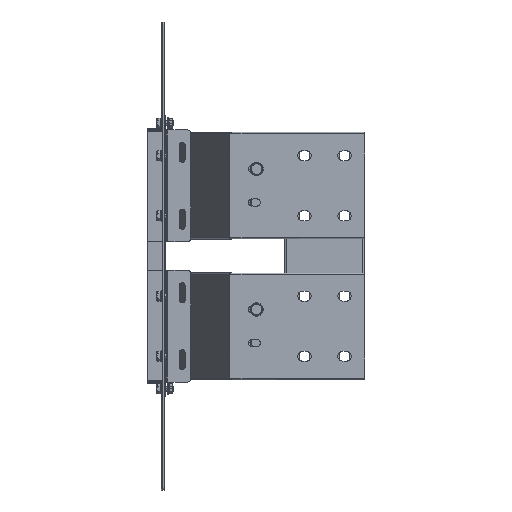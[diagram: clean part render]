
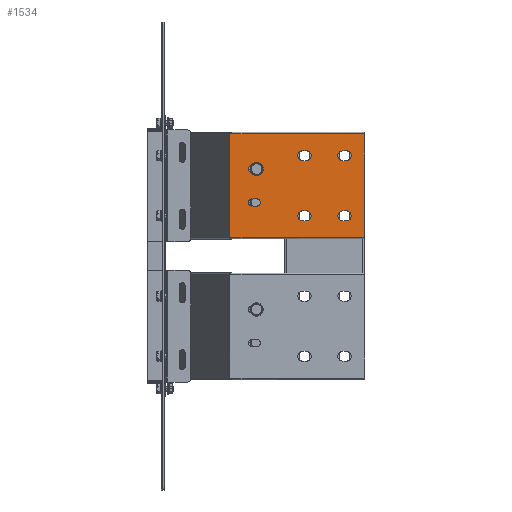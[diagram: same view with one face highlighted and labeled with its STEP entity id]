
A CAD part, front view. The second image highlights one B-rep face of the part: STEP entity #1534.
In plain terms, the highlighted planar face has unit normal (0, -1, 0).
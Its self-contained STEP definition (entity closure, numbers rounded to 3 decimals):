
#1290=AXIS2_PLACEMENT_3D('Circle Axis2P3D',#1288,#1289,$) ;
#1310=AXIS2_PLACEMENT_3D('Plane Axis2P3D',#1307,#1308,#1309) ;
#1348=AXIS2_PLACEMENT_3D('Circle Axis2P3D',#1346,#1347,$) ;
#1366=AXIS2_PLACEMENT_3D('Circle Axis2P3D',#1364,#1365,$) ;
#1382=AXIS2_PLACEMENT_3D('Circle Axis2P3D',#1380,#1381,$) ;
#1400=AXIS2_PLACEMENT_3D('Circle Axis2P3D',#1398,#1399,$) ;
#1416=AXIS2_PLACEMENT_3D('Circle Axis2P3D',#1414,#1415,$) ;
#1443=AXIS2_PLACEMENT_3D('Circle Axis2P3D',#1441,#1442,$) ;
#1457=AXIS2_PLACEMENT_3D('Circle Axis2P3D',#1455,#1456,$) ;
#1468=AXIS2_PLACEMENT_3D('Circle Axis2P3D',#1466,#1467,$) ;
#1484=AXIS2_PLACEMENT_3D('Circle Axis2P3D',#1482,#1483,$) ;
#1502=AXIS2_PLACEMENT_3D('Circle Axis2P3D',#1500,#1501,$) ;
#1518=AXIS2_PLACEMENT_3D('Circle Axis2P3D',#1516,#1517,$) ;
#1254=CARTESIAN_POINT('Vertex',(212.5,-217.25,52.5)) ;
#1257=CARTESIAN_POINT('Line Origine',(210.,-217.25,52.5)) ;
#1261=CARTESIAN_POINT('Vertex',(207.5,-217.25,52.5)) ;
#1288=CARTESIAN_POINT('Axis2P3D Location',(207.5,-217.25,45.)) ;
#1292=CARTESIAN_POINT('Vertex',(207.5,-217.25,37.5)) ;
#1307=CARTESIAN_POINT('Axis2P3D Location',(300.,-217.25,-77.75)) ;
#1312=CARTESIAN_POINT('Line Origine',(199.262,-217.25,-77.75)) ;
#1316=CARTESIAN_POINT('Vertex',(300.,-217.25,-77.75)) ;
#1318=CARTESIAN_POINT('Vertex',(98.524,-217.25,-77.75)) ;
#1321=CARTESIAN_POINT('Line Origine',(300.,-217.25,0.)) ;
#1325=CARTESIAN_POINT('Vertex',(300.,-217.25,77.75)) ;
#1328=CARTESIAN_POINT('Line Origine',(199.262,-217.25,77.75)) ;
#1332=CARTESIAN_POINT('Vertex',(98.524,-217.25,77.75)) ;
#1335=CARTESIAN_POINT('Line Origine',(98.524,-217.25,0.)) ;
#1346=CARTESIAN_POINT('Axis2P3D Location',(212.5,-217.25,45.)) ;
#1350=CARTESIAN_POINT('Vertex',(212.5,-217.25,37.5)) ;
#1353=CARTESIAN_POINT('Line Origine',(210.,-217.25,37.5)) ;
#1364=CARTESIAN_POINT('Axis2P3D Location',(272.5,-217.25,45.)) ;
#1368=CARTESIAN_POINT('Vertex',(272.5,-217.25,37.5)) ;
#1370=CARTESIAN_POINT('Vertex',(272.5,-217.25,52.5)) ;
#1373=CARTESIAN_POINT('Line Origine',(270.,-217.25,37.5)) ;
#1377=CARTESIAN_POINT('Vertex',(267.5,-217.25,37.5)) ;
#1380=CARTESIAN_POINT('Axis2P3D Location',(267.5,-217.25,45.)) ;
#1384=CARTESIAN_POINT('Vertex',(267.5,-217.25,52.5)) ;
#1387=CARTESIAN_POINT('Line Origine',(270.,-217.25,52.5)) ;
#1398=CARTESIAN_POINT('Axis2P3D Location',(207.5,-217.25,-45.)) ;
#1402=CARTESIAN_POINT('Vertex',(207.5,-217.25,-37.5)) ;
#1404=CARTESIAN_POINT('Vertex',(207.5,-217.25,-52.5)) ;
#1407=CARTESIAN_POINT('Line Origine',(210.,-217.25,-37.5)) ;
#1411=CARTESIAN_POINT('Vertex',(212.5,-217.25,-37.5)) ;
#1414=CARTESIAN_POINT('Axis2P3D Location',(212.5,-217.25,-45.)) ;
#1418=CARTESIAN_POINT('Vertex',(212.5,-217.25,-52.5)) ;
#1421=CARTESIAN_POINT('Line Origine',(210.,-217.25,-52.5)) ;
#1432=CARTESIAN_POINT('Line Origine',(270.,-217.25,-37.5)) ;
#1436=CARTESIAN_POINT('Vertex',(272.5,-217.25,-37.5)) ;
#1438=CARTESIAN_POINT('Vertex',(267.5,-217.25,-37.5)) ;
#1441=CARTESIAN_POINT('Axis2P3D Location',(272.5,-217.25,-45.)) ;
#1445=CARTESIAN_POINT('Vertex',(272.5,-217.25,-52.5)) ;
#1448=CARTESIAN_POINT('Line Origine',(270.,-217.25,-52.5)) ;
#1452=CARTESIAN_POINT('Vertex',(267.5,-217.25,-52.5)) ;
#1455=CARTESIAN_POINT('Axis2P3D Location',(267.5,-217.25,-45.)) ;
#1466=CARTESIAN_POINT('Axis2P3D Location',(138.5,-217.25,25.)) ;
#1470=CARTESIAN_POINT('Vertex',(138.5,-217.25,19.5)) ;
#1472=CARTESIAN_POINT('Vertex',(138.5,-217.25,30.5)) ;
#1475=CARTESIAN_POINT('Line Origine',(135.,-217.25,19.5)) ;
#1479=CARTESIAN_POINT('Vertex',(131.5,-217.25,19.5)) ;
#1482=CARTESIAN_POINT('Axis2P3D Location',(131.5,-217.25,25.)) ;
#1486=CARTESIAN_POINT('Vertex',(131.5,-217.25,30.5)) ;
#1489=CARTESIAN_POINT('Line Origine',(135.,-217.25,30.5)) ;
#1500=CARTESIAN_POINT('Axis2P3D Location',(131.5,-217.25,-25.)) ;
#1504=CARTESIAN_POINT('Vertex',(131.5,-217.25,-19.5)) ;
#1506=CARTESIAN_POINT('Vertex',(131.5,-217.25,-30.5)) ;
#1509=CARTESIAN_POINT('Line Origine',(135.,-217.25,-19.5)) ;
#1513=CARTESIAN_POINT('Vertex',(138.5,-217.25,-19.5)) ;
#1516=CARTESIAN_POINT('Axis2P3D Location',(138.5,-217.25,-25.)) ;
#1520=CARTESIAN_POINT('Vertex',(138.5,-217.25,-30.5)) ;
#1523=CARTESIAN_POINT('Line Origine',(135.,-217.25,-30.5)) ;
#1258=DIRECTION('Vector Direction',(1.,0.,0.)) ;
#1289=DIRECTION('Axis2P3D Direction',(0.,-1.,0.)) ;
#1308=DIRECTION('Axis2P3D Direction',(0.,-1.,0.)) ;
#1309=DIRECTION('Axis2P3D XDirection',(0.,0.,1.)) ;
#1313=DIRECTION('Vector Direction',(-1.,0.,0.)) ;
#1322=DIRECTION('Vector Direction',(0.,0.,1.)) ;
#1329=DIRECTION('Vector Direction',(-1.,0.,0.)) ;
#1336=DIRECTION('Vector Direction',(0.,0.,1.)) ;
#1347=DIRECTION('Axis2P3D Direction',(0.,-1.,0.)) ;
#1354=DIRECTION('Vector Direction',(-1.,0.,0.)) ;
#1365=DIRECTION('Axis2P3D Direction',(0.,-1.,0.)) ;
#1374=DIRECTION('Vector Direction',(1.,0.,0.)) ;
#1381=DIRECTION('Axis2P3D Direction',(0.,-1.,0.)) ;
#1388=DIRECTION('Vector Direction',(-1.,0.,0.)) ;
#1399=DIRECTION('Axis2P3D Direction',(0.,-1.,0.)) ;
#1408=DIRECTION('Vector Direction',(-1.,0.,0.)) ;
#1415=DIRECTION('Axis2P3D Direction',(0.,-1.,0.)) ;
#1422=DIRECTION('Vector Direction',(1.,0.,0.)) ;
#1433=DIRECTION('Vector Direction',(1.,0.,0.)) ;
#1442=DIRECTION('Axis2P3D Direction',(0.,-1.,0.)) ;
#1449=DIRECTION('Vector Direction',(-1.,0.,0.)) ;
#1456=DIRECTION('Axis2P3D Direction',(0.,-1.,0.)) ;
#1467=DIRECTION('Axis2P3D Direction',(0.,-1.,0.)) ;
#1476=DIRECTION('Vector Direction',(-1.,0.,0.)) ;
#1483=DIRECTION('Axis2P3D Direction',(0.,-1.,0.)) ;
#1490=DIRECTION('Vector Direction',(1.,0.,0.)) ;
#1501=DIRECTION('Axis2P3D Direction',(0.,-1.,0.)) ;
#1510=DIRECTION('Vector Direction',(-1.,0.,0.)) ;
#1517=DIRECTION('Axis2P3D Direction',(0.,-1.,0.)) ;
#1524=DIRECTION('Vector Direction',(1.,0.,0.)) ;
#1259=VECTOR('Line Direction',#1258,1.) ;
#1314=VECTOR('Line Direction',#1313,1.) ;
#1323=VECTOR('Line Direction',#1322,1.) ;
#1330=VECTOR('Line Direction',#1329,1.) ;
#1337=VECTOR('Line Direction',#1336,1.) ;
#1355=VECTOR('Line Direction',#1354,1.) ;
#1375=VECTOR('Line Direction',#1374,1.) ;
#1389=VECTOR('Line Direction',#1388,1.) ;
#1409=VECTOR('Line Direction',#1408,1.) ;
#1423=VECTOR('Line Direction',#1422,1.) ;
#1434=VECTOR('Line Direction',#1433,1.) ;
#1450=VECTOR('Line Direction',#1449,1.) ;
#1477=VECTOR('Line Direction',#1476,1.) ;
#1491=VECTOR('Line Direction',#1490,1.) ;
#1511=VECTOR('Line Direction',#1510,1.) ;
#1525=VECTOR('Line Direction',#1524,1.) ;
#1341=ORIENTED_EDGE('',*,*,#1320,.F.) ;
#1342=ORIENTED_EDGE('',*,*,#1327,.F.) ;
#1343=ORIENTED_EDGE('',*,*,#1334,.T.) ;
#1344=ORIENTED_EDGE('',*,*,#1339,.F.) ;
#1359=ORIENTED_EDGE('',*,*,#1352,.F.) ;
#1360=ORIENTED_EDGE('',*,*,#1357,.F.) ;
#1361=ORIENTED_EDGE('',*,*,#1294,.F.) ;
#1362=ORIENTED_EDGE('',*,*,#1263,.F.) ;
#1393=ORIENTED_EDGE('',*,*,#1372,.F.) ;
#1394=ORIENTED_EDGE('',*,*,#1379,.F.) ;
#1395=ORIENTED_EDGE('',*,*,#1386,.F.) ;
#1396=ORIENTED_EDGE('',*,*,#1391,.F.) ;
#1427=ORIENTED_EDGE('',*,*,#1406,.F.) ;
#1428=ORIENTED_EDGE('',*,*,#1413,.F.) ;
#1429=ORIENTED_EDGE('',*,*,#1420,.F.) ;
#1430=ORIENTED_EDGE('',*,*,#1425,.F.) ;
#1461=ORIENTED_EDGE('',*,*,#1440,.F.) ;
#1462=ORIENTED_EDGE('',*,*,#1447,.F.) ;
#1463=ORIENTED_EDGE('',*,*,#1454,.F.) ;
#1464=ORIENTED_EDGE('',*,*,#1459,.F.) ;
#1495=ORIENTED_EDGE('',*,*,#1474,.F.) ;
#1496=ORIENTED_EDGE('',*,*,#1481,.F.) ;
#1497=ORIENTED_EDGE('',*,*,#1488,.F.) ;
#1498=ORIENTED_EDGE('',*,*,#1493,.F.) ;
#1529=ORIENTED_EDGE('',*,*,#1508,.F.) ;
#1530=ORIENTED_EDGE('',*,*,#1515,.F.) ;
#1531=ORIENTED_EDGE('',*,*,#1522,.F.) ;
#1532=ORIENTED_EDGE('',*,*,#1527,.F.) ;
#1363=FACE_BOUND('',#1358,.T.) ;
#1397=FACE_BOUND('',#1392,.T.) ;
#1431=FACE_BOUND('',#1426,.T.) ;
#1465=FACE_BOUND('',#1460,.T.) ;
#1499=FACE_BOUND('',#1494,.T.) ;
#1533=FACE_BOUND('',#1528,.T.) ;
#1534=ADVANCED_FACE('N',(#1345,#1363,#1397,#1431,#1465,#1499,#1533),#1311,.T.) ;
#1291=CIRCLE('generated circle',#1290,7.5) ;
#1349=CIRCLE('generated circle',#1348,7.5) ;
#1367=CIRCLE('generated circle',#1366,7.5) ;
#1383=CIRCLE('generated circle',#1382,7.5) ;
#1401=CIRCLE('generated circle',#1400,7.5) ;
#1417=CIRCLE('generated circle',#1416,7.5) ;
#1444=CIRCLE('generated circle',#1443,7.5) ;
#1458=CIRCLE('generated circle',#1457,7.5) ;
#1469=CIRCLE('generated circle',#1468,5.5) ;
#1485=CIRCLE('generated circle',#1484,5.5) ;
#1503=CIRCLE('generated circle',#1502,5.5) ;
#1519=CIRCLE('generated circle',#1518,5.5) ;
#1263=EDGE_CURVE('',#1255,#1262,#1260,.F.) ;
#1294=EDGE_CURVE('',#1262,#1293,#1291,.T.) ;
#1320=EDGE_CURVE('',#1317,#1319,#1315,.T.) ;
#1327=EDGE_CURVE('',#1326,#1317,#1324,.F.) ;
#1334=EDGE_CURVE('',#1326,#1333,#1331,.T.) ;
#1339=EDGE_CURVE('',#1319,#1333,#1338,.T.) ;
#1352=EDGE_CURVE('',#1351,#1255,#1349,.T.) ;
#1357=EDGE_CURVE('',#1293,#1351,#1356,.F.) ;
#1372=EDGE_CURVE('',#1369,#1371,#1367,.T.) ;
#1379=EDGE_CURVE('',#1378,#1369,#1376,.T.) ;
#1386=EDGE_CURVE('',#1385,#1378,#1383,.T.) ;
#1391=EDGE_CURVE('',#1371,#1385,#1390,.T.) ;
#1406=EDGE_CURVE('',#1403,#1405,#1401,.T.) ;
#1413=EDGE_CURVE('',#1412,#1403,#1410,.T.) ;
#1420=EDGE_CURVE('',#1419,#1412,#1417,.T.) ;
#1425=EDGE_CURVE('',#1405,#1419,#1424,.T.) ;
#1440=EDGE_CURVE('',#1437,#1439,#1435,.F.) ;
#1447=EDGE_CURVE('',#1446,#1437,#1444,.T.) ;
#1454=EDGE_CURVE('',#1453,#1446,#1451,.F.) ;
#1459=EDGE_CURVE('',#1439,#1453,#1458,.T.) ;
#1474=EDGE_CURVE('',#1471,#1473,#1469,.T.) ;
#1481=EDGE_CURVE('',#1480,#1471,#1478,.F.) ;
#1488=EDGE_CURVE('',#1487,#1480,#1485,.T.) ;
#1493=EDGE_CURVE('',#1473,#1487,#1492,.F.) ;
#1508=EDGE_CURVE('',#1505,#1507,#1503,.T.) ;
#1515=EDGE_CURVE('',#1514,#1505,#1512,.T.) ;
#1522=EDGE_CURVE('',#1521,#1514,#1519,.T.) ;
#1527=EDGE_CURVE('',#1507,#1521,#1526,.T.) ;
#1340=EDGE_LOOP('',(#1341,#1342,#1343,#1344)) ;
#1358=EDGE_LOOP('',(#1359,#1360,#1361,#1362)) ;
#1392=EDGE_LOOP('',(#1393,#1394,#1395,#1396)) ;
#1426=EDGE_LOOP('',(#1427,#1428,#1429,#1430)) ;
#1460=EDGE_LOOP('',(#1461,#1462,#1463,#1464)) ;
#1494=EDGE_LOOP('',(#1495,#1496,#1497,#1498)) ;
#1528=EDGE_LOOP('',(#1529,#1530,#1531,#1532)) ;
#1345=FACE_OUTER_BOUND('',#1340,.T.) ;
#1260=LINE('Line',#1257,#1259) ;
#1315=LINE('Line',#1312,#1314) ;
#1324=LINE('Line',#1321,#1323) ;
#1331=LINE('Line',#1328,#1330) ;
#1338=LINE('Line',#1335,#1337) ;
#1356=LINE('Line',#1353,#1355) ;
#1376=LINE('Line',#1373,#1375) ;
#1390=LINE('Line',#1387,#1389) ;
#1410=LINE('Line',#1407,#1409) ;
#1424=LINE('Line',#1421,#1423) ;
#1435=LINE('Line',#1432,#1434) ;
#1451=LINE('Line',#1448,#1450) ;
#1478=LINE('Line',#1475,#1477) ;
#1492=LINE('Line',#1489,#1491) ;
#1512=LINE('Line',#1509,#1511) ;
#1526=LINE('Line',#1523,#1525) ;
#1311=PLANE('',#1310) ;
#1255=VERTEX_POINT('',#1254) ;
#1262=VERTEX_POINT('',#1261) ;
#1293=VERTEX_POINT('',#1292) ;
#1317=VERTEX_POINT('',#1316) ;
#1319=VERTEX_POINT('',#1318) ;
#1326=VERTEX_POINT('',#1325) ;
#1333=VERTEX_POINT('',#1332) ;
#1351=VERTEX_POINT('',#1350) ;
#1369=VERTEX_POINT('',#1368) ;
#1371=VERTEX_POINT('',#1370) ;
#1378=VERTEX_POINT('',#1377) ;
#1385=VERTEX_POINT('',#1384) ;
#1403=VERTEX_POINT('',#1402) ;
#1405=VERTEX_POINT('',#1404) ;
#1412=VERTEX_POINT('',#1411) ;
#1419=VERTEX_POINT('',#1418) ;
#1437=VERTEX_POINT('',#1436) ;
#1439=VERTEX_POINT('',#1438) ;
#1446=VERTEX_POINT('',#1445) ;
#1453=VERTEX_POINT('',#1452) ;
#1471=VERTEX_POINT('',#1470) ;
#1473=VERTEX_POINT('',#1472) ;
#1480=VERTEX_POINT('',#1479) ;
#1487=VERTEX_POINT('',#1486) ;
#1505=VERTEX_POINT('',#1504) ;
#1507=VERTEX_POINT('',#1506) ;
#1514=VERTEX_POINT('',#1513) ;
#1521=VERTEX_POINT('',#1520) ;
